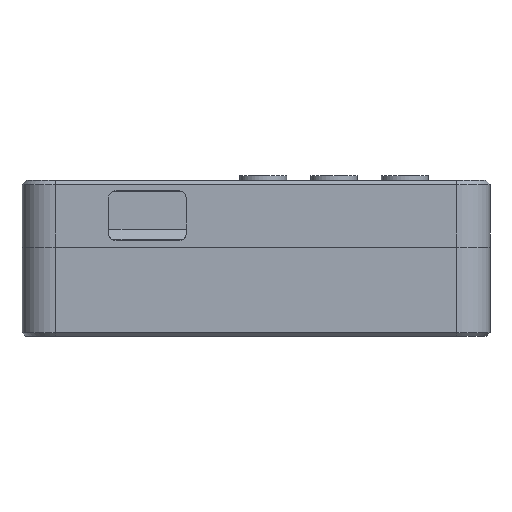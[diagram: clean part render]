
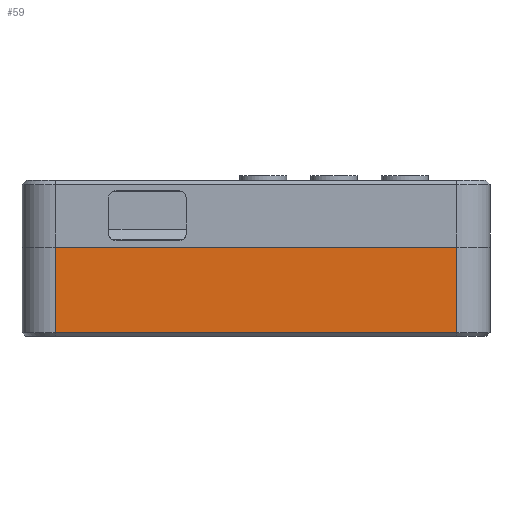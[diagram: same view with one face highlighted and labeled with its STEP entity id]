
A CAD part, left-side view. The second image highlights one B-rep face of the part: STEP entity #59.
In plain terms, the highlighted planar face has unit normal (-1, 0, 0).
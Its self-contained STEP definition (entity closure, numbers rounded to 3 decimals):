
#59 = ADVANCED_FACE('',(#60),#74,.F.);
#60 = FACE_BOUND('',#61,.F.);
#61 = EDGE_LOOP('',(#62,#97,#125,#153));
#62 = ORIENTED_EDGE('',*,*,#63,.F.);
#63 = EDGE_CURVE('',#64,#66,#68,.T.);
#64 = VERTEX_POINT('',#65);
#65 = CARTESIAN_POINT('',(-32.,-36.,0.6));
#66 = VERTEX_POINT('',#67);
#67 = CARTESIAN_POINT('',(-32.,-36.,16.));
#68 = SURFACE_CURVE('',#69,(#73,#85),.PCURVE_S1.);
#69 = LINE('',#70,#71);
#70 = CARTESIAN_POINT('',(-32.,-36.,0.));
#71 = VECTOR('',#72,1.);
#72 = DIRECTION('',(0.,0.,1.));
#73 = PCURVE('',#74,#79);
#74 = PLANE('',#75);
#75 = AXIS2_PLACEMENT_3D('',#76,#77,#78);
#76 = CARTESIAN_POINT('',(-32.,-42.,0.));
#77 = DIRECTION('',(1.,0.,0.));
#78 = DIRECTION('',(0.,0.,1.));
#79 = DEFINITIONAL_REPRESENTATION('',(#80),#84);
#80 = LINE('',#81,#82);
#81 = CARTESIAN_POINT('',(0.,-6.));
#82 = VECTOR('',#83,1.);
#83 = DIRECTION('',(1.,0.));
#84 = ( GEOMETRIC_REPRESENTATION_CONTEXT(2) 
PARAMETRIC_REPRESENTATION_CONTEXT() REPRESENTATION_CONTEXT('2D SPACE',''
  ) );
#85 = PCURVE('',#86,#91);
#86 = CYLINDRICAL_SURFACE('',#87,6.);
#87 = AXIS2_PLACEMENT_3D('',#88,#89,#90);
#88 = CARTESIAN_POINT('',(-26.,-36.,0.));
#89 = DIRECTION('',(0.,0.,1.));
#90 = DIRECTION('',(-1.,-0.,0.));
#91 = DEFINITIONAL_REPRESENTATION('',(#92),#96);
#92 = LINE('',#93,#94);
#93 = CARTESIAN_POINT('',(0.,0.));
#94 = VECTOR('',#95,1.);
#95 = DIRECTION('',(0.,1.));
#96 = ( GEOMETRIC_REPRESENTATION_CONTEXT(2) 
PARAMETRIC_REPRESENTATION_CONTEXT() REPRESENTATION_CONTEXT('2D SPACE',''
  ) );
#97 = ORIENTED_EDGE('',*,*,#98,.T.);
#98 = EDGE_CURVE('',#64,#99,#101,.T.);
#99 = VERTEX_POINT('',#100);
#100 = CARTESIAN_POINT('',(-32.,36.,0.6));
#101 = SURFACE_CURVE('',#102,(#106,#113),.PCURVE_S1.);
#102 = LINE('',#103,#104);
#103 = CARTESIAN_POINT('',(-32.,-36.,0.6));
#104 = VECTOR('',#105,1.);
#105 = DIRECTION('',(0.,1.,0.));
#106 = PCURVE('',#74,#107);
#107 = DEFINITIONAL_REPRESENTATION('',(#108),#112);
#108 = LINE('',#109,#110);
#109 = CARTESIAN_POINT('',(0.6,-6.));
#110 = VECTOR('',#111,1.);
#111 = DIRECTION('',(0.,-1.));
#112 = ( GEOMETRIC_REPRESENTATION_CONTEXT(2) 
PARAMETRIC_REPRESENTATION_CONTEXT() REPRESENTATION_CONTEXT('2D SPACE',''
  ) );
#113 = PCURVE('',#114,#119);
#114 = PLANE('',#115);
#115 = AXIS2_PLACEMENT_3D('',#116,#117,#118);
#116 = CARTESIAN_POINT('',(-31.7,-36.,0.3));
#117 = DIRECTION('',(-0.707,0.,-0.707));
#118 = DIRECTION('',(0.,1.,0.));
#119 = DEFINITIONAL_REPRESENTATION('',(#120),#124);
#120 = LINE('',#121,#122);
#121 = CARTESIAN_POINT('',(0.,-0.424));
#122 = VECTOR('',#123,1.);
#123 = DIRECTION('',(1.,0.));
#124 = ( GEOMETRIC_REPRESENTATION_CONTEXT(2) 
PARAMETRIC_REPRESENTATION_CONTEXT() REPRESENTATION_CONTEXT('2D SPACE',''
  ) );
#125 = ORIENTED_EDGE('',*,*,#126,.T.);
#126 = EDGE_CURVE('',#99,#127,#129,.T.);
#127 = VERTEX_POINT('',#128);
#128 = CARTESIAN_POINT('',(-32.,36.,16.));
#129 = SURFACE_CURVE('',#130,(#134,#141),.PCURVE_S1.);
#130 = LINE('',#131,#132);
#131 = CARTESIAN_POINT('',(-32.,36.,0.));
#132 = VECTOR('',#133,1.);
#133 = DIRECTION('',(0.,0.,1.));
#134 = PCURVE('',#74,#135);
#135 = DEFINITIONAL_REPRESENTATION('',(#136),#140);
#136 = LINE('',#137,#138);
#137 = CARTESIAN_POINT('',(0.,-78.));
#138 = VECTOR('',#139,1.);
#139 = DIRECTION('',(1.,0.));
#140 = ( GEOMETRIC_REPRESENTATION_CONTEXT(2) 
PARAMETRIC_REPRESENTATION_CONTEXT() REPRESENTATION_CONTEXT('2D SPACE',''
  ) );
#141 = PCURVE('',#142,#147);
#142 = CYLINDRICAL_SURFACE('',#143,6.);
#143 = AXIS2_PLACEMENT_3D('',#144,#145,#146);
#144 = CARTESIAN_POINT('',(-26.,36.,0.));
#145 = DIRECTION('',(0.,0.,1.));
#146 = DIRECTION('',(-1.,-0.,0.));
#147 = DEFINITIONAL_REPRESENTATION('',(#148),#152);
#148 = LINE('',#149,#150);
#149 = CARTESIAN_POINT('',(-0.,0.));
#150 = VECTOR('',#151,1.);
#151 = DIRECTION('',(-0.,1.));
#152 = ( GEOMETRIC_REPRESENTATION_CONTEXT(2) 
PARAMETRIC_REPRESENTATION_CONTEXT() REPRESENTATION_CONTEXT('2D SPACE',''
  ) );
#153 = ORIENTED_EDGE('',*,*,#154,.F.);
#154 = EDGE_CURVE('',#66,#127,#155,.T.);
#155 = SURFACE_CURVE('',#156,(#160,#167),.PCURVE_S1.);
#156 = LINE('',#157,#158);
#157 = CARTESIAN_POINT('',(-32.,-42.,16.));
#158 = VECTOR('',#159,1.);
#159 = DIRECTION('',(0.,1.,0.));
#160 = PCURVE('',#74,#161);
#161 = DEFINITIONAL_REPRESENTATION('',(#162),#166);
#162 = LINE('',#163,#164);
#163 = CARTESIAN_POINT('',(16.,0.));
#164 = VECTOR('',#165,1.);
#165 = DIRECTION('',(0.,-1.));
#166 = ( GEOMETRIC_REPRESENTATION_CONTEXT(2) 
PARAMETRIC_REPRESENTATION_CONTEXT() REPRESENTATION_CONTEXT('2D SPACE',''
  ) );
#167 = PCURVE('',#168,#173);
#168 = PLANE('',#169);
#169 = AXIS2_PLACEMENT_3D('',#170,#171,#172);
#170 = CARTESIAN_POINT('',(-32.,-42.,16.));
#171 = DIRECTION('',(0.,0.,1.));
#172 = DIRECTION('',(1.,0.,0.));
#173 = DEFINITIONAL_REPRESENTATION('',(#174),#178);
#174 = LINE('',#175,#176);
#175 = CARTESIAN_POINT('',(0.,0.));
#176 = VECTOR('',#177,1.);
#177 = DIRECTION('',(0.,1.));
#178 = ( GEOMETRIC_REPRESENTATION_CONTEXT(2) 
PARAMETRIC_REPRESENTATION_CONTEXT() REPRESENTATION_CONTEXT('2D SPACE',''
  ) );
